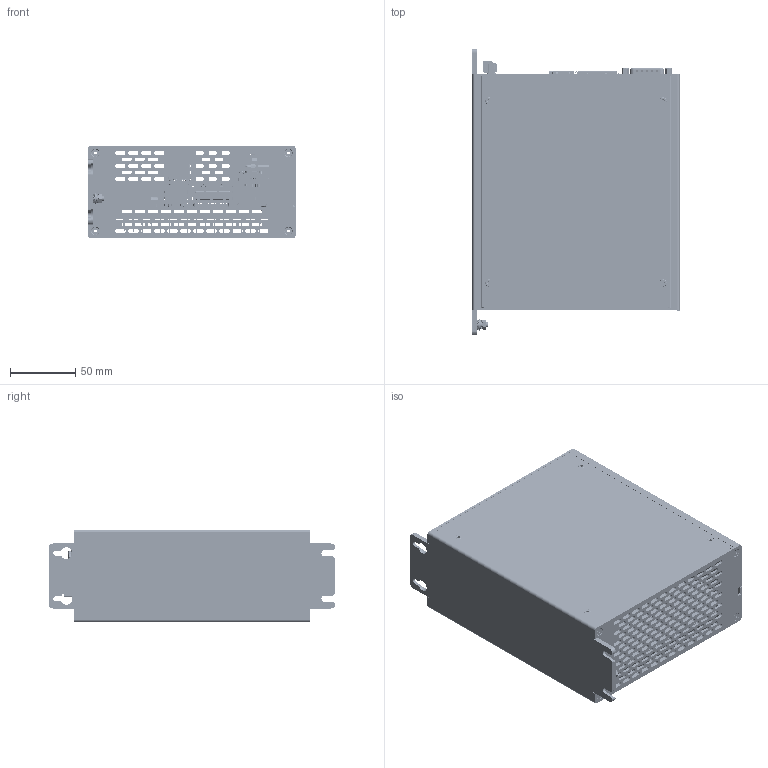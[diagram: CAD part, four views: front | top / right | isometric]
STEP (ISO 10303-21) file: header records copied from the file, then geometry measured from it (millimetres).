
FILE_DESCRIPTION((''),'2;1');
FILE_NAME('93663200_ASM','2019-09-19T',('androm'),(''),'PRO/ENGINEER BY PARAMETRIC TECHNOLOGY CORPORATION, 2013410','PRO/ENGINEER BY PARAMETRIC TECHNOLOGY CORPORATION, 2013410','');
FILE_SCHEMA(('AUTOMOTIVE_DESIGN { 1 0 10303 214 1 1 1 1 }'));
Products named in the file (1): 93663200_ASM
Bounding box: 159.6 x 220 x 71 mm (x, y, z)
Surface area: 363534.1 mm2 (no closed solid volume)
Topology: 0 solids, 719 shells, 6367 faces, 29306 edges, 23016 vertices
Faces by surface type: plane 4213, cylinder 1576, cone 220, bspline 164, torus 140, sphere 36, extrusion 18
Entity records: 348144 total; most frequent: CARTESIAN_POINT 84004, DIRECTION 46637, ORIENTED_EDGE 42287, EDGE_CURVE 29222, VERTEX_POINT 23015, VECTOR 20699, LINE 20681, AXIS2_PLACEMENT_3D 12969
